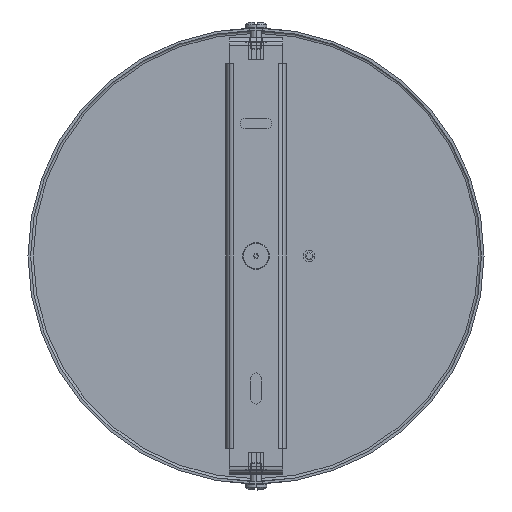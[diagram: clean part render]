
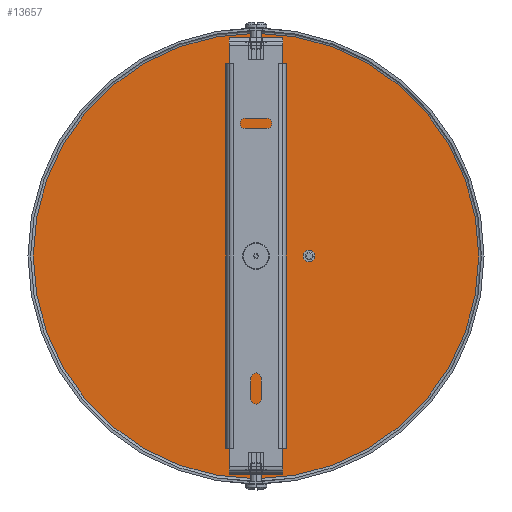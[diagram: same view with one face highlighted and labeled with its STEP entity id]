
A CAD part, front view. The second image highlights one B-rep face of the part: STEP entity #13657.
In plain terms, the highlighted planar face has unit normal (0, -1, 0) as drawn and (0, 1, 0) by its records, which use the part's own axes.
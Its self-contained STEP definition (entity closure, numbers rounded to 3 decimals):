
#176 = DIRECTION ( 'NONE',  ( 0., 0., 1. ) ) ;
#777 = CARTESIAN_POINT ( 'NONE',  ( 0., 1., 0. ) ) ;
#875 = CARTESIAN_POINT ( 'NONE',  ( 20., 1., 0. ) ) ;
#1142 = EDGE_CURVE ( 'NONE', #8856, #10063, #9990, .T. ) ;
#1277 = DIRECTION ( 'NONE',  ( 0., 1., 0. ) ) ;
#1565 = DIRECTION ( 'NONE',  ( 0., 1., 0. ) ) ;
#1947 = DIRECTION ( 'NONE',  ( 0., 1., 0. ) ) ;
#3151 = CIRCLE ( 'NONE', #6655, 2.5 ) ;
#3533 = DIRECTION ( 'NONE',  ( 0., -1., 0. ) ) ;
#3605 = CARTESIAN_POINT ( 'NONE',  ( 0., 1., 0. ) ) ;
#3641 = DIRECTION ( 'NONE',  ( 0., -1., 0. ) ) ;
#3679 = CIRCLE ( 'NONE', #5354, 84. ) ;
#3746 = CARTESIAN_POINT ( 'NONE',  ( 0., 1., 0. ) ) ;
#3750 = AXIS2_PLACEMENT_3D ( 'NONE', #777, #1947, #10285 ) ;
#4213 = ORIENTED_EDGE ( 'NONE', *, *, #4792, .F. ) ;
#4358 = CARTESIAN_POINT ( 'NONE',  ( 0., 1., -84. ) ) ;
#4686 = CARTESIAN_POINT ( 'NONE',  ( 0., 1., 84. ) ) ;
#4721 = FACE_BOUND ( 'NONE', #12870, .T. ) ;
#4792 = EDGE_CURVE ( 'NONE', #15228, #5028, #9333, .T. ) ;
#4913 = FACE_BOUND ( 'NONE', #6695, .T. ) ;
#5028 = VERTEX_POINT ( 'NONE', #8404 ) ;
#5354 = AXIS2_PLACEMENT_3D ( 'NONE', #3746, #3641, #176 ) ;
#5372 = DIRECTION ( 'NONE',  ( 0., 1., 0. ) ) ;
#5630 = ORIENTED_EDGE ( 'NONE', *, *, #7098, .F. ) ;
#5826 = FACE_BOUND ( 'NONE', #12588, .T. ) ;
#5895 = ORIENTED_EDGE ( 'NONE', *, *, #8063, .F. ) ;
#5896 = DIRECTION ( 'NONE',  ( 0., 0., 1. ) ) ;
#5968 = AXIS2_PLACEMENT_3D ( 'NONE', #3605, #1277, #11996 ) ;
#6171 = AXIS2_PLACEMENT_3D ( 'NONE', #875, #11596, #9055 ) ;
#6655 = AXIS2_PLACEMENT_3D ( 'NONE', #11040, #14463, #7284 ) ;
#6695 = EDGE_LOOP ( 'NONE', ( #5895, #12259 ) ) ;
#6715 = CARTESIAN_POINT ( 'NONE',  ( 0., 1., 0. ) ) ;
#6761 = CARTESIAN_POINT ( 'NONE',  ( 0., 1., -5.25 ) ) ;
#7098 = EDGE_CURVE ( 'NONE', #10063, #8856, #3679, .T. ) ;
#7284 = DIRECTION ( 'NONE',  ( 0., 0., 1. ) ) ;
#8063 = EDGE_CURVE ( 'NONE', #12608, #9854, #13278, .T. ) ;
#8116 = CARTESIAN_POINT ( 'NONE',  ( 20., 1., -2.25 ) ) ;
#8281 = AXIS2_PLACEMENT_3D ( 'NONE', #8908, #5372, #9013 ) ;
#8404 = CARTESIAN_POINT ( 'NONE',  ( 0., 1., 5.25 ) ) ;
#8439 = VERTEX_POINT ( 'NONE', #12159 ) ;
#8783 = CARTESIAN_POINT ( 'NONE',  ( 20., 1., 0. ) ) ;
#8799 = ORIENTED_EDGE ( 'NONE', *, *, #9226, .F. ) ;
#8841 = ORIENTED_EDGE ( 'NONE', *, *, #10738, .F. ) ;
#8856 = VERTEX_POINT ( 'NONE', #4686 ) ;
#8908 = CARTESIAN_POINT ( 'NONE',  ( 0., 1., -20.5 ) ) ;
#9013 = DIRECTION ( 'NONE',  ( 0., 0., 1. ) ) ;
#9055 = DIRECTION ( 'NONE',  ( 0., 0., 1. ) ) ;
#9226 = EDGE_CURVE ( 'NONE', #10667, #8439, #12696, .T. ) ;
#9333 = CIRCLE ( 'NONE', #3750, 5.25 ) ;
#9816 = CARTESIAN_POINT ( 'NONE',  ( 0., 1., -23. ) ) ;
#9826 = CARTESIAN_POINT ( 'NONE',  ( 0., 1., -18. ) ) ;
#9837 = EDGE_CURVE ( 'NONE', #9854, #12608, #3151, .T. ) ;
#9854 = VERTEX_POINT ( 'NONE', #9816 ) ;
#9977 = CIRCLE ( 'NONE', #6171, 2.25 ) ;
#9990 = CIRCLE ( 'NONE', #13004, 84. ) ;
#10063 = VERTEX_POINT ( 'NONE', #4358 ) ;
#10148 = FACE_OUTER_BOUND ( 'NONE', #11382, .T. ) ;
#10285 = DIRECTION ( 'NONE',  ( 0., 0., 1. ) ) ;
#10341 = DIRECTION ( 'NONE',  ( 0., 1., 0. ) ) ;
#10401 = CIRCLE ( 'NONE', #5968, 5.25 ) ;
#10667 = VERTEX_POINT ( 'NONE', #8116 ) ;
#10673 = CARTESIAN_POINT ( 'NONE',  ( 0., 1., 0. ) ) ;
#10738 = EDGE_CURVE ( 'NONE', #5028, #15228, #10401, .T. ) ;
#11040 = CARTESIAN_POINT ( 'NONE',  ( 0., 1., -20.5 ) ) ;
#11216 = DIRECTION ( 'NONE',  ( 0., 0., 1. ) ) ;
#11331 = AXIS2_PLACEMENT_3D ( 'NONE', #6715, #10341, #15125 ) ;
#11382 = EDGE_LOOP ( 'NONE', ( #11745, #5630 ) ) ;
#11549 = PLANE ( 'NONE',  #11331 ) ;
#11596 = DIRECTION ( 'NONE',  ( 0., 1., 0. ) ) ;
#11745 = ORIENTED_EDGE ( 'NONE', *, *, #1142, .F. ) ;
#11996 = DIRECTION ( 'NONE',  ( 0., 0., 1. ) ) ;
#12159 = CARTESIAN_POINT ( 'NONE',  ( 20., 1., 2.25 ) ) ;
#12183 = EDGE_CURVE ( 'NONE', #8439, #10667, #9977, .T. ) ;
#12259 = ORIENTED_EDGE ( 'NONE', *, *, #9837, .F. ) ;
#12588 = EDGE_LOOP ( 'NONE', ( #4213, #8841 ) ) ;
#12592 = ORIENTED_EDGE ( 'NONE', *, *, #12183, .F. ) ;
#12608 = VERTEX_POINT ( 'NONE', #9826 ) ;
#12683 = AXIS2_PLACEMENT_3D ( 'NONE', #8783, #1565, #11216 ) ;
#12696 = CIRCLE ( 'NONE', #12683, 2.25 ) ;
#12870 = EDGE_LOOP ( 'NONE', ( #8799, #12592 ) ) ;
#13004 = AXIS2_PLACEMENT_3D ( 'NONE', #10673, #3533, #5896 ) ;
#13278 = CIRCLE ( 'NONE', #8281, 2.5 ) ;
#13657 = ADVANCED_FACE ( 'NONE', ( #4913, #10148, #5826, #4721 ), #11549, .T. ) ;
#14463 = DIRECTION ( 'NONE',  ( 0., 1., 0. ) ) ;
#15125 = DIRECTION ( 'NONE',  ( 0., 0., 1. ) ) ;
#15228 = VERTEX_POINT ( 'NONE', #6761 ) ;
